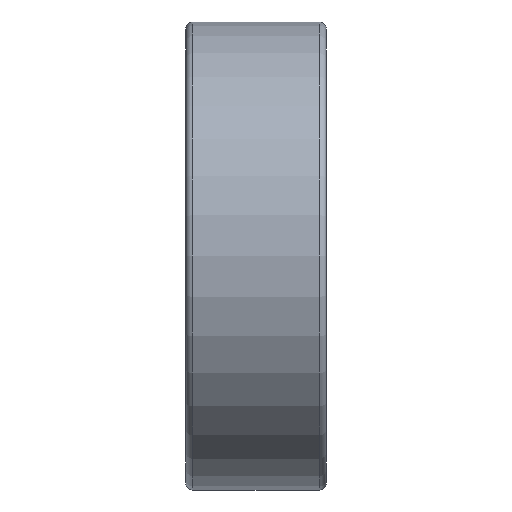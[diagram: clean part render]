
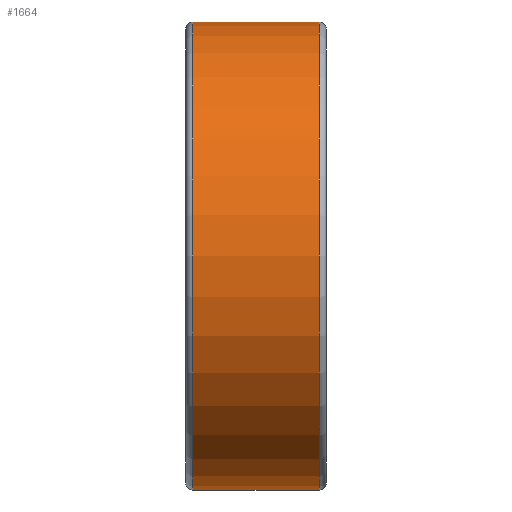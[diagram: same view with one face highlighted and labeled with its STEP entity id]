
A CAD part, front view. The second image highlights one B-rep face of the part: STEP entity #1664.
In plain terms, the highlighted cylindrical face has radius 20 mm (diameter 40 mm), a full revolution.
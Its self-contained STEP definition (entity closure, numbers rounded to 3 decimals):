
#204=LINE('',#2925,#266);
#266=VECTOR('',#2316,20.);
#327=CYLINDRICAL_SURFACE('',#1934,20.);
#386=FACE_OUTER_BOUND('',#476,.T.);
#476=EDGE_LOOP('',(#1276,#1277,#1278,#1279,#1280,#1281,#1282,#1283));
#625=CIRCLE('',#1930,20.);
#626=CIRCLE('',#1931,20.);
#628=CIRCLE('',#1933,20.);
#629=CIRCLE('',#1935,20.);
#630=CIRCLE('',#1936,20.);
#631=CIRCLE('',#1937,20.);
#797=VERTEX_POINT('',#2911);
#798=VERTEX_POINT('',#2912);
#799=VERTEX_POINT('',#2914);
#800=VERTEX_POINT('',#2919);
#801=VERTEX_POINT('',#2920);
#802=VERTEX_POINT('',#2922);
#979=EDGE_CURVE('',#797,#798,#625,.T.);
#980=EDGE_CURVE('',#799,#797,#626,.T.);
#982=EDGE_CURVE('',#798,#799,#628,.T.);
#983=EDGE_CURVE('',#800,#801,#629,.T.);
#984=EDGE_CURVE('',#802,#800,#630,.T.);
#985=EDGE_CURVE('',#801,#802,#631,.T.);
#986=EDGE_CURVE('',#801,#798,#204,.T.);
#1276=ORIENTED_EDGE('',*,*,#983,.F.);
#1277=ORIENTED_EDGE('',*,*,#984,.F.);
#1278=ORIENTED_EDGE('',*,*,#985,.F.);
#1279=ORIENTED_EDGE('',*,*,#986,.T.);
#1280=ORIENTED_EDGE('',*,*,#982,.T.);
#1281=ORIENTED_EDGE('',*,*,#980,.T.);
#1282=ORIENTED_EDGE('',*,*,#979,.T.);
#1283=ORIENTED_EDGE('',*,*,#986,.F.);
#1664=ADVANCED_FACE('',(#386),#327,.T.);
#1930=AXIS2_PLACEMENT_3D('',#2913,#2300,#2301);
#1931=AXIS2_PLACEMENT_3D('',#2915,#2302,#2303);
#1933=AXIS2_PLACEMENT_3D('',#2917,#2306,#2307);
#1934=AXIS2_PLACEMENT_3D('',#2918,#2308,#2309);
#1935=AXIS2_PLACEMENT_3D('',#2921,#2310,#2311);
#1936=AXIS2_PLACEMENT_3D('',#2923,#2312,#2313);
#1937=AXIS2_PLACEMENT_3D('',#2924,#2314,#2315);
#2300=DIRECTION('center_axis',(-1.,0.,0.));
#2301=DIRECTION('ref_axis',(0.,0.,1.));
#2302=DIRECTION('center_axis',(-1.,0.,0.));
#2303=DIRECTION('ref_axis',(0.,0.,1.));
#2306=DIRECTION('center_axis',(-1.,0.,0.));
#2307=DIRECTION('ref_axis',(0.,0.,1.));
#2308=DIRECTION('center_axis',(-1.,0.,0.));
#2309=DIRECTION('ref_axis',(0.,-1.,0.));
#2310=DIRECTION('center_axis',(-1.,0.,0.));
#2311=DIRECTION('ref_axis',(0.,0.,1.));
#2312=DIRECTION('center_axis',(-1.,0.,0.));
#2313=DIRECTION('ref_axis',(0.,0.,1.));
#2314=DIRECTION('center_axis',(-1.,0.,0.));
#2315=DIRECTION('ref_axis',(0.,0.,1.));
#2316=DIRECTION('',(1.,0.,0.));
#2911=CARTESIAN_POINT('',(8.65,-20.,0.));
#2912=CARTESIAN_POINT('',(8.65,20.,0.));
#2913=CARTESIAN_POINT('Origin',(8.65,0.,0.));
#2914=CARTESIAN_POINT('',(8.65,0.,-20.));
#2915=CARTESIAN_POINT('Origin',(8.65,0.,0.));
#2917=CARTESIAN_POINT('Origin',(8.65,0.,0.));
#2918=CARTESIAN_POINT('Origin',(3.25,0.,0.));
#2919=CARTESIAN_POINT('',(-2.15,-20.,0.));
#2920=CARTESIAN_POINT('',(-2.15,20.,0.));
#2921=CARTESIAN_POINT('Origin',(-2.15,0.,0.));
#2922=CARTESIAN_POINT('',(-2.15,0.,-20.));
#2923=CARTESIAN_POINT('Origin',(-2.15,0.,0.));
#2924=CARTESIAN_POINT('Origin',(-2.15,0.,0.));
#2925=CARTESIAN_POINT('',(3.25,20.,0.));
